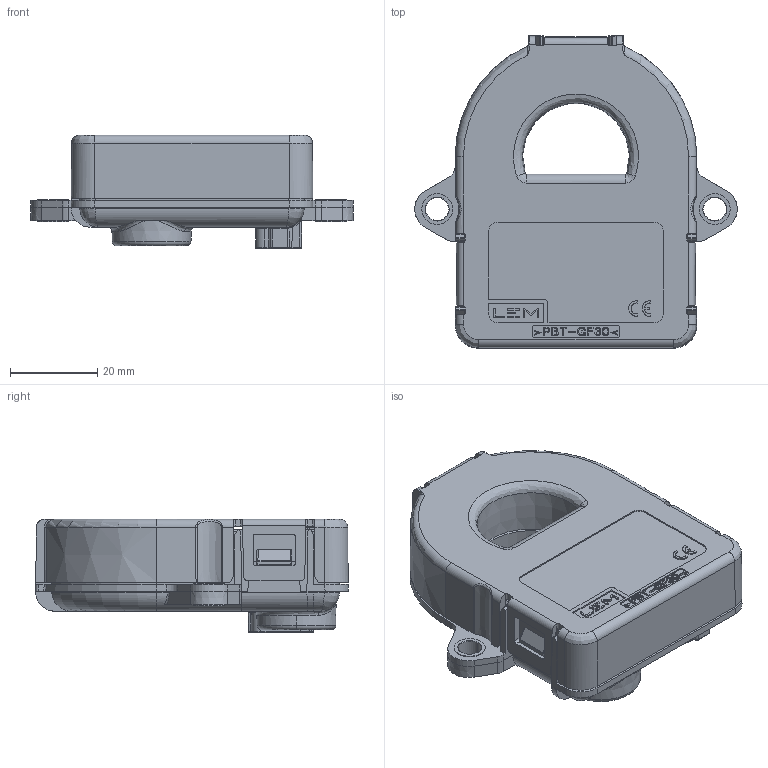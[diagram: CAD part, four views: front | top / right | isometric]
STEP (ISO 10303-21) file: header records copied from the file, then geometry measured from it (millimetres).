
FILE_DESCRIPTION(('Creo Elements/Direct Modeling STEP Export'),'2;1');
FILE_NAME('CAB-SF_1500-001.stp','2019-11-21T15:35:54',(''),(''),'Creo Elements/Direct Modeling STEP processor for AP214 (Solid Model)','Creo Elements/Direct Modeling 20.1 10-Mar-2018 (C) Parametric Technology GmbH','');
FILE_SCHEMA(('AUTOMOTIVE_DESIGN { 1 0 10303 214 1 1 1 1 }'));
Products named in the file (2): CAB-SF_1500-001
Assembly tree (1 placements, depth 2):
  CAB-SF_1500-001
    CAB-SF_1500-001
Bounding box: 73.8 x 71.45 x 25.94 mm (x, y, z)
Volume: 62605.7 mm3; surface area: 26871.7 mm2
Topology: 1 solids, 1 shells, 1572 faces, 4220 edges, 2677 vertices
Faces by surface type: plane 1018, cylinder 291, bspline 197, cone 49, torus 13, extrusion 3, sphere 1
Entity records: 62411 total; most frequent: CARTESIAN_POINT 25551, ORIENTED_EDGE 8416, DIRECTION 6333, EDGE_CURVE 4208, VECTOR 3089, LINE 3086, VERTEX_POINT 2677, EDGE_LOOP 1647
